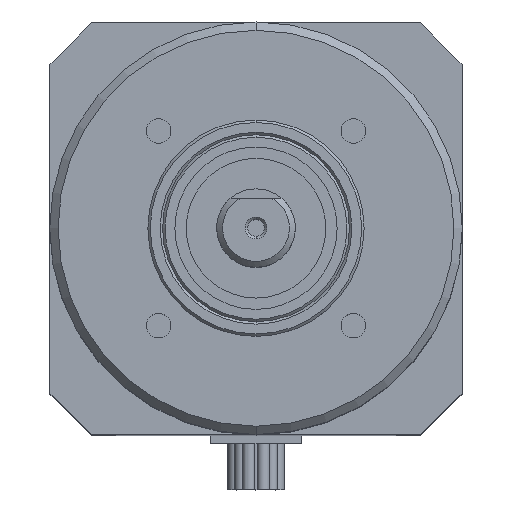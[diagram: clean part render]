
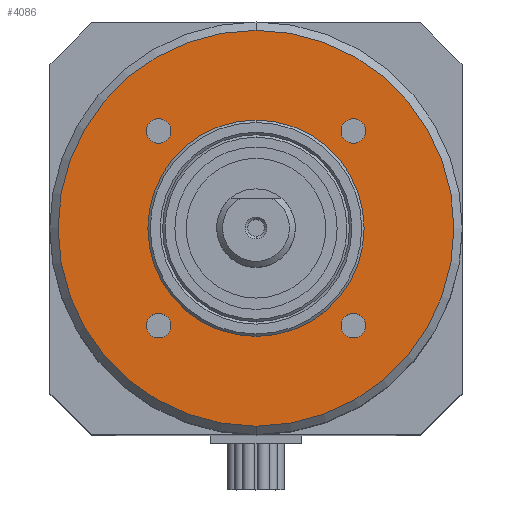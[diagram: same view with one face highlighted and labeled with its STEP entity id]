
A CAD part, top view. The second image highlights one B-rep face of the part: STEP entity #4086.
In plain terms, the highlighted planar face has unit normal (0, 0, 1).
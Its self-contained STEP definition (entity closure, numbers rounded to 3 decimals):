
#61 = CIRCLE ( 'NONE', #391, 1.25 ) ;
#125 = DIRECTION ( 'NONE',  ( 0., 0., -1. ) ) ;
#256 = AXIS2_PLACEMENT_3D ( 'NONE', #6054, #1314, #6125 ) ;
#391 = AXIS2_PLACEMENT_3D ( 'NONE', #2968, #5093, #2446 ) ;
#511 = CARTESIAN_POINT ( 'NONE',  ( 0., -20.125, 37.3 ) ) ;
#615 = CIRCLE ( 'NONE', #4515, 1.25 ) ;
#625 = ORIENTED_EDGE ( 'NONE', *, *, #5727, .F. ) ;
#672 = ORIENTED_EDGE ( 'NONE', *, *, #1184, .F. ) ;
#677 = DIRECTION ( 'NONE',  ( 0., 0., 1. ) ) ;
#741 = DIRECTION ( 'NONE',  ( 1., 0., 0. ) ) ;
#788 = EDGE_CURVE ( 'NONE', #822, #5371, #5180, .T. ) ;
#822 = VERTEX_POINT ( 'NONE', #6296 ) ;
#857 = AXIS2_PLACEMENT_3D ( 'NONE', #2494, #3562, #3012 ) ;
#876 = VERTEX_POINT ( 'NONE', #5518 ) ;
#945 = DIRECTION ( 'NONE',  ( 0., 0., 1. ) ) ;
#966 = CARTESIAN_POINT ( 'NONE',  ( 11.149, 9.899, 37.3 ) ) ;
#1110 = FACE_BOUND ( 'NONE', #2610, .T. ) ;
#1166 = DIRECTION ( 'NONE',  ( 1., 0., 0. ) ) ;
#1184 = EDGE_CURVE ( 'NONE', #2483, #1650, #3687, .T. ) ;
#1211 = CARTESIAN_POINT ( 'NONE',  ( 9.899, 9.899, 37.3 ) ) ;
#1232 = VERTEX_POINT ( 'NONE', #511 ) ;
#1302 = VERTEX_POINT ( 'NONE', #4024 ) ;
#1314 = DIRECTION ( 'NONE',  ( 0., 0., -1. ) ) ;
#1328 = EDGE_CURVE ( 'NONE', #6804, #6327, #6858, .T. ) ;
#1339 = ORIENTED_EDGE ( 'NONE', *, *, #1328, .F. ) ;
#1372 = EDGE_LOOP ( 'NONE', ( #2458, #4930 ) ) ;
#1391 = AXIS2_PLACEMENT_3D ( 'NONE', #3849, #2287, #1166 ) ;
#1400 = AXIS2_PLACEMENT_3D ( 'NONE', #2597, #6801, #5267 ) ;
#1453 = VERTEX_POINT ( 'NONE', #6024 ) ;
#1457 = CARTESIAN_POINT ( 'NONE',  ( -11.149, -9.899, 37.3 ) ) ;
#1495 = CIRCLE ( 'NONE', #256, 20.125 ) ;
#1557 = EDGE_LOOP ( 'NONE', ( #1874, #6521 ) ) ;
#1605 = ORIENTED_EDGE ( 'NONE', *, *, #6445, .F. ) ;
#1650 = VERTEX_POINT ( 'NONE', #1838 ) ;
#1694 = AXIS2_PLACEMENT_3D ( 'NONE', #1211, #677, #5994 ) ;
#1838 = CARTESIAN_POINT ( 'NONE',  ( 8.649, 9.899, 37.3 ) ) ;
#1858 = ORIENTED_EDGE ( 'NONE', *, *, #5126, .F. ) ;
#1866 = CARTESIAN_POINT ( 'NONE',  ( 0., 11., 37.3 ) ) ;
#1874 = ORIENTED_EDGE ( 'NONE', *, *, #4999, .F. ) ;
#2082 = VERTEX_POINT ( 'NONE', #4798 ) ;
#2261 = DIRECTION ( 'NONE',  ( 0., 1., 0. ) ) ;
#2287 = DIRECTION ( 'NONE',  ( 0., 0., 1. ) ) ;
#2380 = CARTESIAN_POINT ( 'NONE',  ( -9.899, -9.899, 37.3 ) ) ;
#2446 = DIRECTION ( 'NONE',  ( 1., 0., 0. ) ) ;
#2458 = ORIENTED_EDGE ( 'NONE', *, *, #3374, .F. ) ;
#2483 = VERTEX_POINT ( 'NONE', #966 ) ;
#2494 = CARTESIAN_POINT ( 'NONE',  ( -9.899, -9.899, 37.3 ) ) ;
#2559 = EDGE_CURVE ( 'NONE', #5371, #822, #5726, .T. ) ;
#2580 = FACE_BOUND ( 'NONE', #3218, .T. ) ;
#2597 = CARTESIAN_POINT ( 'NONE',  ( 0., 0., 37.3 ) ) ;
#2610 = EDGE_LOOP ( 'NONE', ( #6104, #4325 ) ) ;
#2616 = FACE_BOUND ( 'NONE', #3997, .T. ) ;
#2682 = DIRECTION ( 'NONE',  ( 0., 1., 0. ) ) ;
#2873 = DIRECTION ( 'NONE',  ( 1., 0., 0. ) ) ;
#2921 = CIRCLE ( 'NONE', #1694, 1.25 ) ;
#2968 = CARTESIAN_POINT ( 'NONE',  ( 9.899, -9.899, 37.3 ) ) ;
#3012 = DIRECTION ( 'NONE',  ( 1., 0., 0. ) ) ;
#3056 = EDGE_CURVE ( 'NONE', #876, #2082, #5846, .T. ) ;
#3131 = DIRECTION ( 'NONE',  ( 0., 0., -1. ) ) ;
#3137 = DIRECTION ( 'NONE',  ( 1., 0., 0. ) ) ;
#3218 = EDGE_LOOP ( 'NONE', ( #1339, #625 ) ) ;
#3229 = CARTESIAN_POINT ( 'NONE',  ( 0., 0., 37.3 ) ) ;
#3352 = ORIENTED_EDGE ( 'NONE', *, *, #4581, .F. ) ;
#3374 = EDGE_CURVE ( 'NONE', #1302, #1232, #1495, .T. ) ;
#3562 = DIRECTION ( 'NONE',  ( 0., 0., 1. ) ) ;
#3687 = CIRCLE ( 'NONE', #5472, 1.25 ) ;
#3849 = CARTESIAN_POINT ( 'NONE',  ( -9.899, 9.899, 37.3 ) ) ;
#3997 = EDGE_LOOP ( 'NONE', ( #672, #3352 ) ) ;
#4024 = CARTESIAN_POINT ( 'NONE',  ( 0., 20.125, 37.3 ) ) ;
#4038 = CIRCLE ( 'NONE', #6165, 1.25 ) ;
#4086 = ADVANCED_FACE ( 'NONE', ( #2580, #6452, #2616, #5894, #4693, #1110 ), #5285, .F. ) ;
#4142 = CIRCLE ( 'NONE', #6711, 1.25 ) ;
#4325 = ORIENTED_EDGE ( 'NONE', *, *, #788, .T. ) ;
#4369 = CIRCLE ( 'NONE', #4697, 20.125 ) ;
#4416 = CARTESIAN_POINT ( 'NONE',  ( 0., 0., 37.3 ) ) ;
#4515 = AXIS2_PLACEMENT_3D ( 'NONE', #2380, #6594, #741 ) ;
#4581 = EDGE_CURVE ( 'NONE', #1650, #2483, #2921, .T. ) ;
#4686 = DIRECTION ( 'NONE',  ( 0., 0., -1. ) ) ;
#4688 = CARTESIAN_POINT ( 'NONE',  ( 9.899, -9.899, 37.3 ) ) ;
#4693 = FACE_OUTER_BOUND ( 'NONE', #1372, .T. ) ;
#4697 = AXIS2_PLACEMENT_3D ( 'NONE', #4416, #125, #2261 ) ;
#4798 = CARTESIAN_POINT ( 'NONE',  ( -8.649, 9.899, 37.3 ) ) ;
#4930 = ORIENTED_EDGE ( 'NONE', *, *, #6572, .F. ) ;
#4999 = EDGE_CURVE ( 'NONE', #2082, #876, #4142, .T. ) ;
#5093 = DIRECTION ( 'NONE',  ( 0., 0., 1. ) ) ;
#5126 = EDGE_CURVE ( 'NONE', #1453, #5506, #61, .T. ) ;
#5180 = CIRCLE ( 'NONE', #1400, 11. ) ;
#5267 = DIRECTION ( 'NONE',  ( 0., 1., 0. ) ) ;
#5285 = PLANE ( 'NONE',  #5817 ) ;
#5371 = VERTEX_POINT ( 'NONE', #1866 ) ;
#5472 = AXIS2_PLACEMENT_3D ( 'NONE', #6351, #945, #3137 ) ;
#5495 = AXIS2_PLACEMENT_3D ( 'NONE', #3229, #4686, #6304 ) ;
#5506 = VERTEX_POINT ( 'NONE', #6326 ) ;
#5518 = CARTESIAN_POINT ( 'NONE',  ( -11.149, 9.899, 37.3 ) ) ;
#5686 = EDGE_LOOP ( 'NONE', ( #1605, #1858 ) ) ;
#5726 = CIRCLE ( 'NONE', #5495, 11. ) ;
#5727 = EDGE_CURVE ( 'NONE', #6327, #6804, #615, .T. ) ;
#5817 = AXIS2_PLACEMENT_3D ( 'NONE', #6345, #3131, #2682 ) ;
#5846 = CIRCLE ( 'NONE', #1391, 1.25 ) ;
#5851 = CARTESIAN_POINT ( 'NONE',  ( -8.649, -9.899, 37.3 ) ) ;
#5894 = FACE_BOUND ( 'NONE', #1557, .T. ) ;
#5994 = DIRECTION ( 'NONE',  ( 1., 0., 0. ) ) ;
#6024 = CARTESIAN_POINT ( 'NONE',  ( 8.649, -9.899, 37.3 ) ) ;
#6054 = CARTESIAN_POINT ( 'NONE',  ( 0., 0., 37.3 ) ) ;
#6104 = ORIENTED_EDGE ( 'NONE', *, *, #2559, .T. ) ;
#6125 = DIRECTION ( 'NONE',  ( 0., 1., 0. ) ) ;
#6147 = DIRECTION ( 'NONE',  ( 0., 0., 1. ) ) ;
#6165 = AXIS2_PLACEMENT_3D ( 'NONE', #4688, #6412, #6852 ) ;
#6296 = CARTESIAN_POINT ( 'NONE',  ( 0., -11., 37.3 ) ) ;
#6304 = DIRECTION ( 'NONE',  ( 0., 1., 0. ) ) ;
#6326 = CARTESIAN_POINT ( 'NONE',  ( 11.149, -9.899, 37.3 ) ) ;
#6327 = VERTEX_POINT ( 'NONE', #1457 ) ;
#6345 = CARTESIAN_POINT ( 'NONE',  ( 0., -20.125, 37.3 ) ) ;
#6351 = CARTESIAN_POINT ( 'NONE',  ( 9.899, 9.899, 37.3 ) ) ;
#6412 = DIRECTION ( 'NONE',  ( 0., 0., 1. ) ) ;
#6445 = EDGE_CURVE ( 'NONE', #5506, #1453, #4038, .T. ) ;
#6452 = FACE_BOUND ( 'NONE', #5686, .T. ) ;
#6521 = ORIENTED_EDGE ( 'NONE', *, *, #3056, .F. ) ;
#6572 = EDGE_CURVE ( 'NONE', #1232, #1302, #4369, .T. ) ;
#6594 = DIRECTION ( 'NONE',  ( 0., 0., 1. ) ) ;
#6661 = CARTESIAN_POINT ( 'NONE',  ( -9.899, 9.899, 37.3 ) ) ;
#6711 = AXIS2_PLACEMENT_3D ( 'NONE', #6661, #6147, #2873 ) ;
#6801 = DIRECTION ( 'NONE',  ( 0., 0., -1. ) ) ;
#6804 = VERTEX_POINT ( 'NONE', #5851 ) ;
#6852 = DIRECTION ( 'NONE',  ( 1., 0., 0. ) ) ;
#6858 = CIRCLE ( 'NONE', #857, 1.25 ) ;
